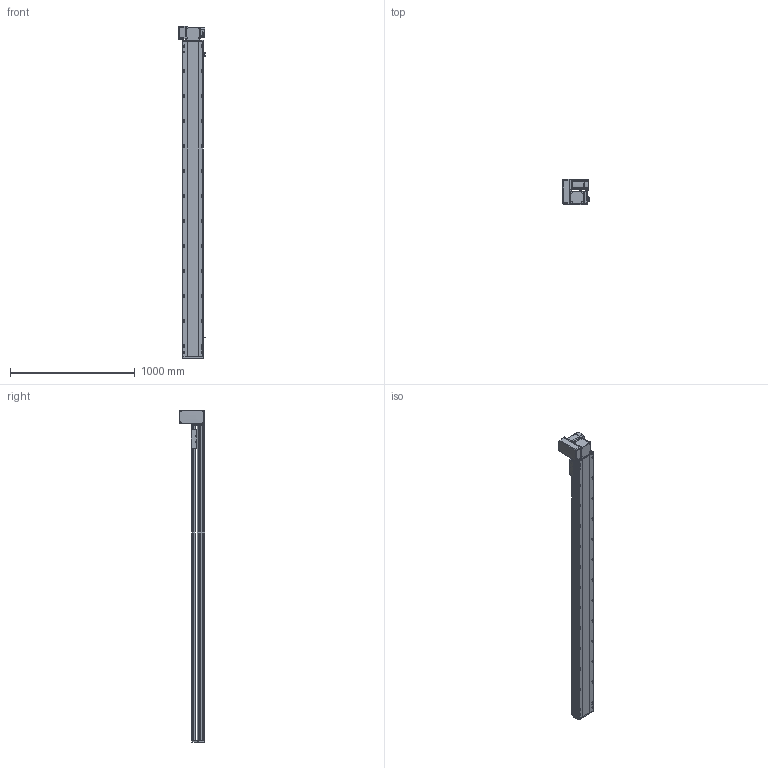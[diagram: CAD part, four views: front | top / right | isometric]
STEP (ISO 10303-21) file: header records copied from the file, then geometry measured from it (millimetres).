
FILE_DESCRIPTION (( 'STEP AP214' ), '1' );
FILE_NAME ('RTB17S-XX-2250-LW-M75-C4.STEP', '2025-12-12T01:12:08', ( '' ), ( '' ), 'SwSTEP 2.0', 'SolidWorks 2018', '' );
FILE_SCHEMA (( 'AUTOMOTIVE_DESIGN' ));
Length unit declared in the file: millimetre
Products named in the file (15): RTB17S-賑釱^RTB17S-XX-XX-LW-M75-C4; RTB17-R-011菁釱^RTB17S-XX-XX-LW-M75-C4; RTB17S-L-007奻裔^RTB17S-XX-XX-LW-M75-C4; RTB17S-LW-々湍釱蚾饜-750W^RTB17S-XX-XX-LW-M75-C4; RTB22S-GY-018P^RTB17S-LW-々湍釱蚾饜-750W_RTB17S-XX-XX-LW-M75-C4; RTB17S-L-004-賑釱^RTB17S-賑釱_RTB17S-XX-XX-LW-M75-C4; RTB17S-L-014-T20-P75--々湍釱^RTB17S-LW-々湍釱蚾饜-750W_RTB17S-XX-XX-LW-M75-C4; RTB22S-GY-005P^RTB17S-LW-々湍釱蚾饜-750W_RTB17S-XX-XX-LW-M75-C4; RTB22S-GY-017P^RTB17S-LW-々湍釱蚾饜-750W_RTB17S-XX-XX-LW-M75-C4; RTB17S-L-001-耜醱啣^RTB17S-XX-XX-LW-M75-C4; RTB22S-GY-008-M75--萇儂啣^RTB17S-LW-々湍釱蚾饜-750W_RTB17S-XX-XX-LW-M75-C4; EE672^RTB17S-XX-XX-LW-M75-C4; 750W萇儂^RTB17S-XX-XX-LW-M75-C4; RTB17S-XX-2250-LW-M75-C4; RTH13-BL-012覜茼え俋离^RTB17S-賑釱_RTB17S-XX-XX-LW-M75-C4
Assembly tree (17 placements, depth 3):
  RTB17S-XX-2250-LW-M75-C4
    RTB17-R-011菁釱^RTB17S-XX-XX-LW-M75-C4
    EE672^RTB17S-XX-XX-LW-M75-C4  x3
    RTB17S-L-001-耜醱啣^RTB17S-XX-XX-LW-M75-C4
    RTB17S-賑釱^RTB17S-XX-XX-LW-M75-C4
      RTB17S-L-004-賑釱^RTB17S-賑釱_RTB17S-XX-XX-LW-M75-C4
      RTH13-BL-012覜茼え俋离^RTB17S-賑釱_RTB17S-XX-XX-LW-M75-C4
    RTB17S-L-007奻裔^RTB17S-XX-XX-LW-M75-C4
    750W萇儂^RTB17S-XX-XX-LW-M75-C4
    RTB17S-LW-々湍釱蚾饜-750W^RTB17S-XX-XX-LW-M75-C4
      RTB17S-L-014-T20-P75--々湍釱^RTB17S-LW-々湍釱蚾饜-750W_RTB17S-XX-XX-LW-M75-C4
      RTB22S-GY-005P^RTB17S-LW-々湍釱蚾饜-750W_RTB17S-XX-XX-LW-M75-C4
      RTB22S-GY-017P^RTB17S-LW-々湍釱蚾饜-750W_RTB17S-XX-XX-LW-M75-C4  x2
      RTB22S-GY-008-M75--萇儂啣^RTB17S-LW-々湍釱蚾饜-750W_RTB17S-XX-XX-LW-M75-C4
      RTB22S-GY-018P^RTB17S-LW-々湍釱蚾饜-750W_RTB17S-XX-XX-LW-M75-C4
Bounding box: 210.4 x 201.5 x 2657.5 mm (x, y, z)
Volume: 20009845.4 mm3; surface area: 3608129.2 mm2
Topology: 17 solids, 17 shells, 2201 faces, 6160 edges, 3986 vertices
Faces by surface type: plane 984, cylinder 801, bspline 294, cone 110, sphere 8, torus 4
Entity records: 63478 total; most frequent: CARTESIAN_POINT 18824, ORIENTED_EDGE 9164, DIRECTION 8492, EDGE_CURVE 4582, AXIS2_PLACEMENT_3D 3006, VERTEX_POINT 2990, LINE 2480, VECTOR 2480
